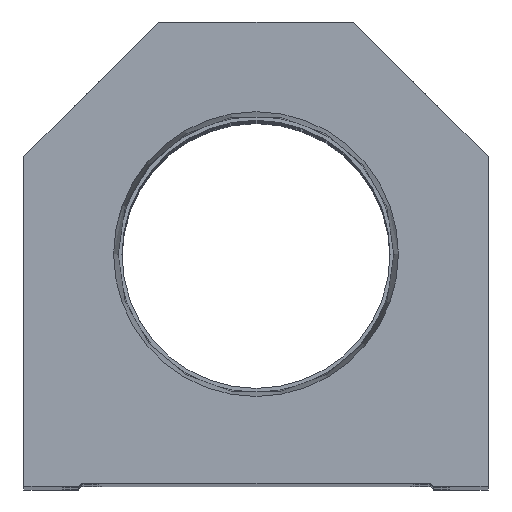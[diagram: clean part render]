
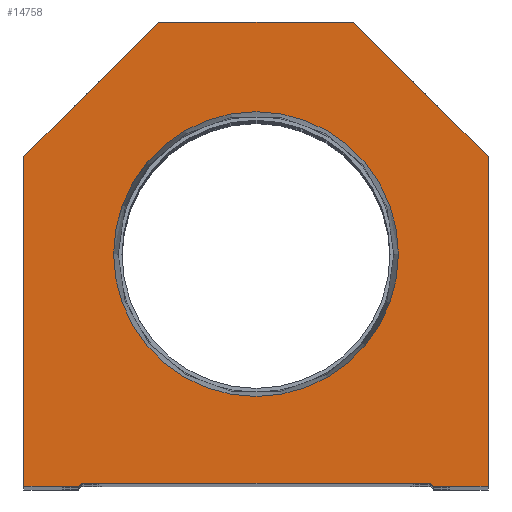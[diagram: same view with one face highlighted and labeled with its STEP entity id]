
A CAD part, top view. The second image highlights one B-rep face of the part: STEP entity #14758.
In plain terms, the highlighted planar face has unit normal (0, 0, 1).
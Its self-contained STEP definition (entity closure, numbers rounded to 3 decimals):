
#91 = EDGE_CURVE ( 'NONE', #2482, #17621, #19617, .T. ) ;
#366 = EDGE_CURVE ( 'NONE', #2129, #14585, #2104, .T. ) ;
#577 = DIRECTION ( 'NONE',  ( 1., 0., 0. ) ) ;
#1181 = FACE_BOUND ( 'NONE', #6623, .T. ) ;
#1451 = DIRECTION ( 'NONE',  ( 0., 0., 1. ) ) ;
#1676 = LINE ( 'NONE', #19137, #18826 ) ;
#1823 = CARTESIAN_POINT ( 'NONE',  ( 38.1, 0., 0. ) ) ;
#1927 = CARTESIAN_POINT ( 'NONE',  ( 38.1, 54.1, 0. ) ) ;
#1993 = DIRECTION ( 'NONE',  ( 0., -1., 0. ) ) ;
#2045 = CARTESIAN_POINT ( 'NONE',  ( -38.1, 54.1, 0. ) ) ;
#2104 = LINE ( 'NONE', #5775, #8625 ) ;
#2129 = VERTEX_POINT ( 'NONE', #12865 ) ;
#2285 = DIRECTION ( 'NONE',  ( 0.707, -0.707, 0. ) ) ;
#2335 = CARTESIAN_POINT ( 'NONE',  ( 28.6, 0.5, 0. ) ) ;
#2482 = VERTEX_POINT ( 'NONE', #1823 ) ;
#2717 = DIRECTION ( 'NONE',  ( 0., 1., 0. ) ) ;
#2849 = CARTESIAN_POINT ( 'NONE',  ( 38.1, 0., 0. ) ) ;
#3129 = PLANE ( 'NONE',  #25765 ) ;
#3201 = VERTEX_POINT ( 'NONE', #12843 ) ;
#3235 = ORIENTED_EDGE ( 'NONE', *, *, #25472, .T. ) ;
#4164 = CARTESIAN_POINT ( 'NONE',  ( 16., 76.2, 0. ) ) ;
#4204 = EDGE_CURVE ( 'NONE', #17621, #21842, #16903, .T. ) ;
#4634 = VECTOR ( 'NONE', #19107, 1000. ) ;
#5116 = CARTESIAN_POINT ( 'NONE',  ( 0., 38.1, 0. ) ) ;
#5775 = CARTESIAN_POINT ( 'NONE',  ( -14.55, 14.55, 0. ) ) ;
#6104 = EDGE_CURVE ( 'NONE', #14585, #20685, #7030, .T. ) ;
#6217 = LINE ( 'NONE', #21009, #15113 ) ;
#6623 = EDGE_LOOP ( 'NONE', ( #21113, #16232 ) ) ;
#6830 = CARTESIAN_POINT ( 'NONE',  ( -38.1, 54.1, 0. ) ) ;
#7030 = LINE ( 'NONE', #13436, #15935 ) ;
#7085 = ORIENTED_EDGE ( 'NONE', *, *, #27527, .T. ) ;
#7313 = EDGE_CURVE ( 'NONE', #20685, #10030, #6217, .T. ) ;
#7969 = LINE ( 'NONE', #12548, #8085 ) ;
#8085 = VECTOR ( 'NONE', #18986, 1000. ) ;
#8160 = VECTOR ( 'NONE', #2717, 1000. ) ;
#8625 = VECTOR ( 'NONE', #20979, 1000. ) ;
#8814 = CARTESIAN_POINT ( 'NONE',  ( 38.1, 54.1, 0. ) ) ;
#9019 = EDGE_CURVE ( 'NONE', #10530, #14937, #16110, .T. ) ;
#10030 = VERTEX_POINT ( 'NONE', #25958 ) ;
#10297 = ORIENTED_EDGE ( 'NONE', *, *, #366, .T. ) ;
#10530 = VERTEX_POINT ( 'NONE', #23068 ) ;
#11022 = CARTESIAN_POINT ( 'NONE',  ( -28.6, 0.5, 0. ) ) ;
#11163 = CARTESIAN_POINT ( 'NONE',  ( 28.6, 0., 0. ) ) ;
#12548 = CARTESIAN_POINT ( 'NONE',  ( -28.6, 0., 0. ) ) ;
#12843 = CARTESIAN_POINT ( 'NONE',  ( -38.1, 0., 0. ) ) ;
#12865 = CARTESIAN_POINT ( 'NONE',  ( -29.1, 0., 0. ) ) ;
#12925 = DIRECTION ( 'NONE',  ( 1., 0., 0. ) ) ;
#13203 = CARTESIAN_POINT ( 'NONE',  ( 0., 38.1, 0. ) ) ;
#13436 = CARTESIAN_POINT ( 'NONE',  ( -28.6, 0.5, 0. ) ) ;
#13750 = CARTESIAN_POINT ( 'NONE',  ( 0., 0., 0. ) ) ;
#14585 = VERTEX_POINT ( 'NONE', #11022 ) ;
#14725 = ORIENTED_EDGE ( 'NONE', *, *, #24237, .T. ) ;
#14758 = ADVANCED_FACE ( 'NONE', ( #1181, #17989 ), #3129, .T. ) ;
#14937 = VERTEX_POINT ( 'NONE', #23801 ) ;
#15113 = VECTOR ( 'NONE', #2285, 1000. ) ;
#15370 = LINE ( 'NONE', #11163, #27425 ) ;
#15790 = EDGE_CURVE ( 'NONE', #14937, #10530, #22784, .T. ) ;
#15830 = ORIENTED_EDGE ( 'NONE', *, *, #4204, .T. ) ;
#15863 = ORIENTED_EDGE ( 'NONE', *, *, #18376, .T. ) ;
#15935 = VECTOR ( 'NONE', #24062, 1000. ) ;
#16110 = CIRCLE ( 'NONE', #26835, 23.374 ) ;
#16232 = ORIENTED_EDGE ( 'NONE', *, *, #15790, .F. ) ;
#16903 = LINE ( 'NONE', #1927, #21063 ) ;
#17122 = LINE ( 'NONE', #27593, #20578 ) ;
#17441 = ORIENTED_EDGE ( 'NONE', *, *, #7313, .T. ) ;
#17621 = VERTEX_POINT ( 'NONE', #8814 ) ;
#17989 = FACE_OUTER_BOUND ( 'NONE', #18017, .T. ) ;
#18017 = EDGE_LOOP ( 'NONE', ( #3235, #10297, #19116, #17441, #15863, #21173, #15830, #23851, #7085, #14725 ) ) ;
#18120 = DIRECTION ( 'NONE',  ( 0., 0., 1. ) ) ;
#18122 = CARTESIAN_POINT ( 'NONE',  ( -16., 76.2, 0. ) ) ;
#18376 = EDGE_CURVE ( 'NONE', #10030, #2482, #15370, .T. ) ;
#18503 = DIRECTION ( 'NONE',  ( 1., 0., 0. ) ) ;
#18826 = VECTOR ( 'NONE', #27272, 1000. ) ;
#18986 = DIRECTION ( 'NONE',  ( 1., 0., 0. ) ) ;
#19107 = DIRECTION ( 'NONE',  ( -0.707, -0.707, 0. ) ) ;
#19116 = ORIENTED_EDGE ( 'NONE', *, *, #6104, .T. ) ;
#19137 = CARTESIAN_POINT ( 'NONE',  ( 16., 76.2, 0. ) ) ;
#19617 = LINE ( 'NONE', #2849, #8160 ) ;
#20196 = DIRECTION ( 'NONE',  ( 1., 0., 0. ) ) ;
#20578 = VECTOR ( 'NONE', #1993, 1000. ) ;
#20685 = VERTEX_POINT ( 'NONE', #2335 ) ;
#20885 = VERTEX_POINT ( 'NONE', #18122 ) ;
#20979 = DIRECTION ( 'NONE',  ( 0.707, 0.707, 0. ) ) ;
#21009 = CARTESIAN_POINT ( 'NONE',  ( 14.55, 14.55, 0. ) ) ;
#21014 = AXIS2_PLACEMENT_3D ( 'NONE', #13203, #27632, #12925 ) ;
#21063 = VECTOR ( 'NONE', #27517, 1000. ) ;
#21113 = ORIENTED_EDGE ( 'NONE', *, *, #9019, .F. ) ;
#21173 = ORIENTED_EDGE ( 'NONE', *, *, #91, .T. ) ;
#21191 = LINE ( 'NONE', #2045, #4634 ) ;
#21842 = VERTEX_POINT ( 'NONE', #4164 ) ;
#22274 = VERTEX_POINT ( 'NONE', #6830 ) ;
#22784 = CIRCLE ( 'NONE', #21014, 23.374 ) ;
#23068 = CARTESIAN_POINT ( 'NONE',  ( 23.374, 38.1, 0. ) ) ;
#23801 = CARTESIAN_POINT ( 'NONE',  ( -23.374, 38.1, 0. ) ) ;
#23851 = ORIENTED_EDGE ( 'NONE', *, *, #26445, .T. ) ;
#24062 = DIRECTION ( 'NONE',  ( 1., 0., 0. ) ) ;
#24237 = EDGE_CURVE ( 'NONE', #22274, #3201, #17122, .T. ) ;
#25472 = EDGE_CURVE ( 'NONE', #3201, #2129, #7969, .T. ) ;
#25765 = AXIS2_PLACEMENT_3D ( 'NONE', #13750, #1451, #18503 ) ;
#25958 = CARTESIAN_POINT ( 'NONE',  ( 29.1, 0., 0. ) ) ;
#26445 = EDGE_CURVE ( 'NONE', #21842, #20885, #1676, .T. ) ;
#26835 = AXIS2_PLACEMENT_3D ( 'NONE', #5116, #18120, #20196 ) ;
#27272 = DIRECTION ( 'NONE',  ( -1., 0., 0. ) ) ;
#27425 = VECTOR ( 'NONE', #577, 1000. ) ;
#27517 = DIRECTION ( 'NONE',  ( -0.707, 0.707, 0. ) ) ;
#27527 = EDGE_CURVE ( 'NONE', #20885, #22274, #21191, .T. ) ;
#27593 = CARTESIAN_POINT ( 'NONE',  ( -38.1, 0., 0. ) ) ;
#27632 = DIRECTION ( 'NONE',  ( 0., 0., 1. ) ) ;
